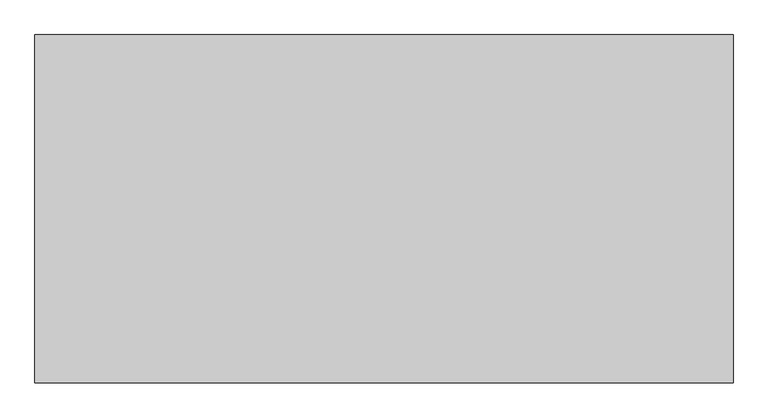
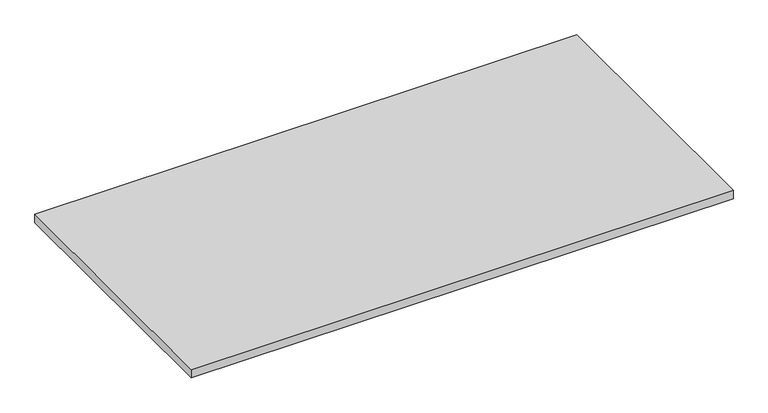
"""IFC4 building model written with IfcOpenShell, lengths in millimetres: furniture geometry, HermanMiller_CoStruc_C4700_RectangularWorkTableSurface : Lam 36D 72W for 48W SS Base."""

from ifc_helpers import new_model, si_unit, frame, origin, place, context, project, spatial, polyline, outline, extrude, source, transform, mapped, element, save


def furniture_51fb69ba(model_context):
    return source(origin(), model_context, "Body", "SweptSolid", [
        extrude(outline(polyline([(1525.6509999, -3.0467299), (1525.6509999, -914.4), (-299.9739999, -914.4), (-299.9739999, -3.0467299), (1525.6509999, -3.0467299)])), frame((0.0, 0.0, 884.5104481), z_axis=(0.0, 0.0, 1.0), x_axis=(1.0, 0.0, 0.0)), (0.0, 0.0, 1.0), 29.972),
    ])


if __name__ == "__main__":
    model = new_model("IFC4")
    model_context = context("Model", 3, world=origin())
    ifc_project = project(units=[si_unit("LENGTHUNIT", "METRE", prefix="MILLI")], contexts=[model_context])
    site = spatial("IfcSite", under=ifc_project)
    building = spatial("IfcBuilding", under=site)
    placement = place(None, origin())
    furniture_shape = furniture_51fb69ba(model_context)
    element("IfcFurniture", 1, ObjectType="HermanMiller_CoStruc_C4700_RectangularWorkTableSurface : Lam 36D 72W for 48W SS Base", at=placement, inside=building, context=model_context, shape_type="MappedRepresentation", body=[
        mapped(furniture_shape, transform((0.0, 0.0, 0.0), x_axis=(1.0, 0.0, 0.0), y_axis=(0.0, 1.0, 0.0), z_axis=(0.0, 0.0, 1.0))),
    ])
    save(model, "model.ifc")
